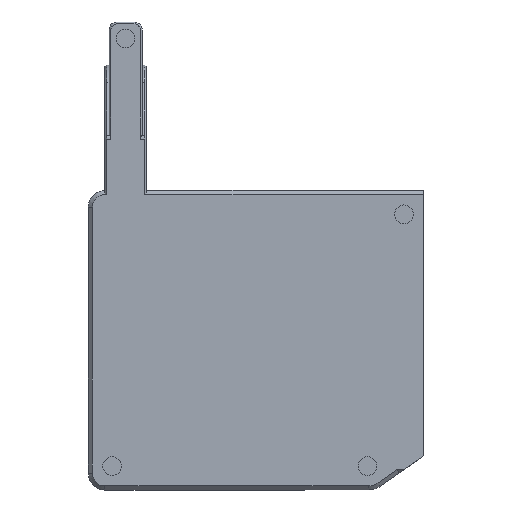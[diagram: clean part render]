
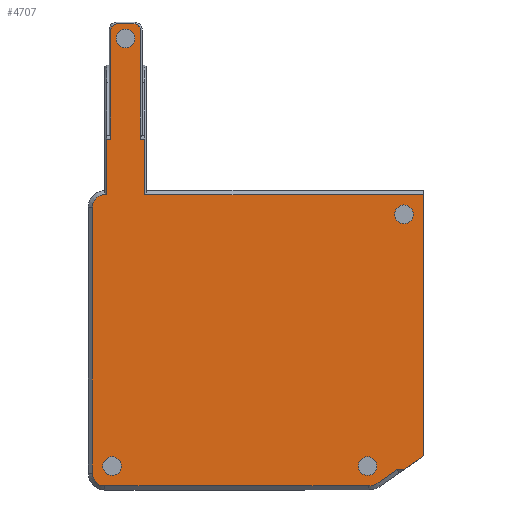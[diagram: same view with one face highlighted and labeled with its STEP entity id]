
A CAD part, top view. The second image highlights one B-rep face of the part: STEP entity #4707.
In plain terms, the highlighted planar face has unit normal (0, 0, 1).
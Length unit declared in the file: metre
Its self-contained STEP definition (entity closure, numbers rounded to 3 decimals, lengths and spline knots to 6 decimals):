
#134=LINE('',#6805,#672);
#135=LINE('',#6808,#673);
#136=LINE('',#6810,#674);
#137=LINE('',#6812,#675);
#138=LINE('',#6814,#676);
#139=LINE('',#6816,#677);
#140=LINE('',#6820,#678);
#141=LINE('',#6824,#679);
#142=LINE('',#6826,#680);
#143=LINE('',#6828,#681);
#144=LINE('',#6832,#682);
#145=LINE('',#6834,#683);
#146=LINE('',#6836,#684);
#147=LINE('',#6840,#685);
#148=LINE('',#6842,#686);
#149=LINE('',#6844,#687);
#150=LINE('',#6848,#688);
#151=LINE('',#6850,#689);
#152=LINE('',#6852,#690);
#153=LINE('',#6854,#691);
#672=VECTOR('',#5423,1.);
#673=VECTOR('',#5424,1.);
#674=VECTOR('',#5425,1.);
#675=VECTOR('',#5426,1.);
#676=VECTOR('',#5427,1.);
#677=VECTOR('',#5428,1.);
#678=VECTOR('',#5431,1.);
#679=VECTOR('',#5434,1.);
#680=VECTOR('',#5435,1.);
#681=VECTOR('',#5436,1.);
#682=VECTOR('',#5439,1.);
#683=VECTOR('',#5440,1.);
#684=VECTOR('',#5441,1.);
#685=VECTOR('',#5444,1.);
#686=VECTOR('',#5445,1.);
#687=VECTOR('',#5446,1.);
#688=VECTOR('',#5449,1.);
#689=VECTOR('',#5450,1.);
#690=VECTOR('',#5451,1.);
#691=VECTOR('',#5452,1.);
#1211=ORIENTED_EDGE('',*,*,#2623,.T.);
#1212=ORIENTED_EDGE('',*,*,#2624,.T.);
#1213=ORIENTED_EDGE('',*,*,#2625,.T.);
#1214=ORIENTED_EDGE('',*,*,#2626,.T.);
#1215=ORIENTED_EDGE('',*,*,#2627,.T.);
#1216=ORIENTED_EDGE('',*,*,#2628,.T.);
#1217=ORIENTED_EDGE('',*,*,#2629,.T.);
#1218=ORIENTED_EDGE('',*,*,#2630,.T.);
#1219=ORIENTED_EDGE('',*,*,#2631,.T.);
#1220=ORIENTED_EDGE('',*,*,#2632,.T.);
#1221=ORIENTED_EDGE('',*,*,#2633,.T.);
#1222=ORIENTED_EDGE('',*,*,#2634,.T.);
#1223=ORIENTED_EDGE('',*,*,#2635,.T.);
#1224=ORIENTED_EDGE('',*,*,#2636,.T.);
#1225=ORIENTED_EDGE('',*,*,#2637,.T.);
#1226=ORIENTED_EDGE('',*,*,#2638,.T.);
#1227=ORIENTED_EDGE('',*,*,#2639,.T.);
#1228=ORIENTED_EDGE('',*,*,#2640,.T.);
#1229=ORIENTED_EDGE('',*,*,#2641,.T.);
#1230=ORIENTED_EDGE('',*,*,#2642,.T.);
#1231=ORIENTED_EDGE('',*,*,#2643,.T.);
#1232=ORIENTED_EDGE('',*,*,#2644,.T.);
#1233=ORIENTED_EDGE('',*,*,#2645,.F.);
#1234=ORIENTED_EDGE('',*,*,#2646,.F.);
#1235=ORIENTED_EDGE('',*,*,#2647,.T.);
#1236=ORIENTED_EDGE('',*,*,#2648,.F.);
#1237=ORIENTED_EDGE('',*,*,#2649,.F.);
#1238=ORIENTED_EDGE('',*,*,#2650,.F.);
#1239=ORIENTED_EDGE('',*,*,#2651,.F.);
#2623=EDGE_CURVE('',#3329,#3330,#134,.T.);
#2624=EDGE_CURVE('',#3330,#3331,#135,.T.);
#2625=EDGE_CURVE('',#3331,#3332,#136,.T.);
#2626=EDGE_CURVE('',#3332,#3333,#137,.T.);
#2627=EDGE_CURVE('',#3333,#3334,#138,.T.);
#2628=EDGE_CURVE('',#3334,#3335,#139,.T.);
#2629=EDGE_CURVE('',#3335,#3336,#3783,.T.);
#2630=EDGE_CURVE('',#3336,#3337,#140,.T.);
#2631=EDGE_CURVE('',#3337,#3338,#3784,.T.);
#2632=EDGE_CURVE('',#3338,#3339,#141,.T.);
#2633=EDGE_CURVE('',#3339,#3340,#142,.T.);
#2634=EDGE_CURVE('',#3340,#3341,#143,.T.);
#2635=EDGE_CURVE('',#3341,#3342,#3785,.T.);
#2636=EDGE_CURVE('',#3342,#3343,#144,.T.);
#2637=EDGE_CURVE('',#3343,#3344,#145,.T.);
#2638=EDGE_CURVE('',#3344,#3345,#146,.T.);
#2639=EDGE_CURVE('',#3345,#3346,#3786,.T.);
#2640=EDGE_CURVE('',#3346,#3347,#147,.T.);
#2641=EDGE_CURVE('',#3347,#3348,#148,.T.);
#2642=EDGE_CURVE('',#3348,#3349,#149,.T.);
#2643=EDGE_CURVE('',#3349,#3350,#3787,.T.);
#2644=EDGE_CURVE('',#3350,#3351,#150,.T.);
#2645=EDGE_CURVE('',#3352,#3351,#151,.T.);
#2646=EDGE_CURVE('',#3353,#3352,#152,.T.);
#2647=EDGE_CURVE('',#3353,#3329,#153,.T.);
#2648=EDGE_CURVE('',#3354,#3354,#3788,.T.);
#2649=EDGE_CURVE('',#3355,#3355,#3789,.T.);
#2650=EDGE_CURVE('',#3356,#3356,#3790,.T.);
#2651=EDGE_CURVE('',#3357,#3357,#3791,.T.);
#3329=VERTEX_POINT('',#6806);
#3330=VERTEX_POINT('',#6807);
#3331=VERTEX_POINT('',#6809);
#3332=VERTEX_POINT('',#6811);
#3333=VERTEX_POINT('',#6813);
#3334=VERTEX_POINT('',#6815);
#3335=VERTEX_POINT('',#6817);
#3336=VERTEX_POINT('',#6819);
#3337=VERTEX_POINT('',#6821);
#3338=VERTEX_POINT('',#6823);
#3339=VERTEX_POINT('',#6825);
#3340=VERTEX_POINT('',#6827);
#3341=VERTEX_POINT('',#6829);
#3342=VERTEX_POINT('',#6831);
#3343=VERTEX_POINT('',#6833);
#3344=VERTEX_POINT('',#6835);
#3345=VERTEX_POINT('',#6837);
#3346=VERTEX_POINT('',#6839);
#3347=VERTEX_POINT('',#6841);
#3348=VERTEX_POINT('',#6843);
#3349=VERTEX_POINT('',#6845);
#3350=VERTEX_POINT('',#6847);
#3351=VERTEX_POINT('',#6849);
#3352=VERTEX_POINT('',#6851);
#3353=VERTEX_POINT('',#6853);
#3354=VERTEX_POINT('',#6856);
#3355=VERTEX_POINT('',#6858);
#3356=VERTEX_POINT('',#6860);
#3357=VERTEX_POINT('',#6862);
#3783=CIRCLE('',#4985,0.0032);
#3784=CIRCLE('',#4986,0.0032);
#3785=CIRCLE('',#4987,0.006);
#3786=CIRCLE('',#4988,0.006);
#3787=CIRCLE('',#4989,0.008);
#3788=CIRCLE('',#4990,0.0045);
#3789=CIRCLE('',#4991,0.0045);
#3790=CIRCLE('',#4992,0.0045);
#3791=CIRCLE('',#4993,0.0045);
#3932=EDGE_LOOP('',(#1211,#1212,#1213,#1214,#1215,#1216,#1217,#1218,#1219,
#1220,#1221,#1222,#1223,#1224,#1225,#1226,#1227,#1228,#1229,#1230,#1231,
#1232,#1233,#1234,#1235));
#3933=EDGE_LOOP('',(#1236));
#3934=EDGE_LOOP('',(#1237));
#3935=EDGE_LOOP('',(#1238));
#3936=EDGE_LOOP('',(#1239));
#4231=FACE_BOUND('',#3932,.T.);
#4232=FACE_BOUND('',#3933,.T.);
#4233=FACE_BOUND('',#3934,.T.);
#4234=FACE_BOUND('',#3935,.T.);
#4235=FACE_BOUND('',#3936,.T.);
#4530=PLANE('',#4984);
#4707=ADVANCED_FACE('',(#4231,#4232,#4233,#4234,#4235),#4530,.T.);
#4984=AXIS2_PLACEMENT_3D('',#6804,#5421,#5422);
#4985=AXIS2_PLACEMENT_3D('',#6818,#5429,#5430);
#4986=AXIS2_PLACEMENT_3D('',#6822,#5432,#5433);
#4987=AXIS2_PLACEMENT_3D('',#6830,#5437,#5438);
#4988=AXIS2_PLACEMENT_3D('',#6838,#5442,#5443);
#4989=AXIS2_PLACEMENT_3D('',#6846,#5447,#5448);
#4990=AXIS2_PLACEMENT_3D('',#6855,#5453,#5454);
#4991=AXIS2_PLACEMENT_3D('',#6857,#5455,#5456);
#4992=AXIS2_PLACEMENT_3D('',#6859,#5457,#5458);
#4993=AXIS2_PLACEMENT_3D('',#6861,#5459,#5460);
#5421=DIRECTION('',(0.,0.,1.));
#5422=DIRECTION('',(1.,0.,0.));
#5423=DIRECTION('',(-1.,0.,0.));
#5424=DIRECTION('',(-1.,0.,0.));
#5425=DIRECTION('',(-1.,0.,0.));
#5426=DIRECTION('',(0.,1.,0.));
#5427=DIRECTION('',(-1.,0.,0.));
#5428=DIRECTION('',(0.,1.,0.));
#5429=DIRECTION('',(0.,0.,1.));
#5430=DIRECTION('',(1.,0.,0.));
#5431=DIRECTION('',(-1.,0.,0.));
#5432=DIRECTION('',(0.,0.,1.));
#5433=DIRECTION('',(1.,0.,0.));
#5434=DIRECTION('',(0.,-1.,0.));
#5435=DIRECTION('',(-1.,0.,0.));
#5436=DIRECTION('',(0.,-1.,0.));
#5437=DIRECTION('',(0.,0.,1.));
#5438=DIRECTION('',(1.,0.,0.));
#5439=DIRECTION('',(0.,-1.,0.));
#5440=DIRECTION('',(0.,-1.,0.));
#5441=DIRECTION('',(0.,-1.,0.));
#5442=DIRECTION('',(0.,0.,1.));
#5443=DIRECTION('',(1.,0.,0.));
#5444=DIRECTION('',(1.,0.,0.));
#5445=DIRECTION('',(1.,0.,0.));
#5446=DIRECTION('',(1.,0.,0.));
#5447=DIRECTION('',(0.,0.,1.));
#5448=DIRECTION('',(1.,0.,0.));
#5449=DIRECTION('',(0.819,0.574,0.));
#5450=DIRECTION('',(-1.,0.,0.));
#5451=DIRECTION('',(-0.819,-0.574,0.));
#5452=DIRECTION('',(0.,1.,0.));
#5453=DIRECTION('',(0.,0.,1.));
#5454=DIRECTION('',(1.,0.,0.));
#5455=DIRECTION('',(0.,0.,1.));
#5456=DIRECTION('',(1.,0.,0.));
#5457=DIRECTION('',(0.,0.,1.));
#5458=DIRECTION('',(1.,0.,0.));
#5459=DIRECTION('',(0.,0.,1.));
#5460=DIRECTION('',(1.,0.,0.));
#6804=CARTESIAN_POINT('',(-0.003,-0.006225,0.00825));
#6805=CARTESIAN_POINT('',(-0.1645,0.06415,0.00825));
#6806=CARTESIAN_POINT('',(-0.102932,0.06415,0.00825));
#6807=CARTESIAN_POINT('',(-0.1645,0.06415,0.00825));
#6808=CARTESIAN_POINT('',(-0.2145,0.06415,0.00825));
#6809=CARTESIAN_POINT('',(-0.2145,0.06415,0.00825));
#6810=CARTESIAN_POINT('',(-0.237,0.06415,0.00825));
#6811=CARTESIAN_POINT('',(-0.2378,0.06415,0.00825));
#6812=CARTESIAN_POINT('',(-0.2378,0.090942,0.00825));
#6813=CARTESIAN_POINT('',(-0.2378,0.090942,0.00825));
#6814=CARTESIAN_POINT('',(-0.257,0.090942,0.00825));
#6815=CARTESIAN_POINT('',(-0.2398,0.090942,0.00825));
#6816=CARTESIAN_POINT('',(-0.2398,0.143586,0.00825));
#6817=CARTESIAN_POINT('',(-0.2398,0.143586,0.00825));
#6818=CARTESIAN_POINT('',(-0.243,0.143586,0.00825));
#6819=CARTESIAN_POINT('',(-0.243,0.146786,0.00825));
#6820=CARTESIAN_POINT('',(-0.251,0.146786,0.00825));
#6821=CARTESIAN_POINT('',(-0.251,0.146786,0.00825));
#6822=CARTESIAN_POINT('',(-0.251,0.143586,0.00825));
#6823=CARTESIAN_POINT('',(-0.2542,0.143586,0.00825));
#6824=CARTESIAN_POINT('',(-0.2542,-0.006225,0.00825));
#6825=CARTESIAN_POINT('',(-0.2542,0.090942,0.00825));
#6826=CARTESIAN_POINT('',(-0.257,0.090942,0.00825));
#6827=CARTESIAN_POINT('',(-0.2562,0.090942,0.00825));
#6828=CARTESIAN_POINT('',(-0.2562,-0.006225,0.00825));
#6829=CARTESIAN_POINT('',(-0.2562,0.064096,0.00825));
#6830=CARTESIAN_POINT('',(-0.257,0.05815,0.00825));
#6831=CARTESIAN_POINT('',(-0.263,0.05815,0.00825));
#6832=CARTESIAN_POINT('',(-0.263,-0.006225,0.00825));
#6833=CARTESIAN_POINT('',(-0.263,-0.006975,0.00825));
#6834=CARTESIAN_POINT('',(-0.263,-0.006225,0.00825));
#6835=CARTESIAN_POINT('',(-0.263,-0.060975,0.00825));
#6836=CARTESIAN_POINT('',(-0.263,-0.006225,0.00825));
#6837=CARTESIAN_POINT('',(-0.263,-0.0706,0.00825));
#6838=CARTESIAN_POINT('',(-0.257,-0.0706,0.00825));
#6839=CARTESIAN_POINT('',(-0.257,-0.0766,0.00825));
#6840=CARTESIAN_POINT('',(-0.003,-0.0766,0.00825));
#6841=CARTESIAN_POINT('',(-0.199315,-0.0766,0.00825));
#6842=CARTESIAN_POINT('',(-0.003,-0.0766,0.00825));
#6843=CARTESIAN_POINT('',(-0.180315,-0.0766,0.00825));
#6844=CARTESIAN_POINT('',(-0.003,-0.0766,0.00825));
#6845=CARTESIAN_POINT('',(-0.129578,-0.0766,0.00825));
#6846=CARTESIAN_POINT('',(-0.129578,-0.0686,0.00825));
#6847=CARTESIAN_POINT('',(-0.12499,-0.075153,0.00825));
#6848=CARTESIAN_POINT('',(-0.008735,0.006249,0.00825));
#6849=CARTESIAN_POINT('',(-0.115631,-0.0686,0.00825));
#6850=CARTESIAN_POINT('',(-0.113485,-0.0686,0.00825));
#6851=CARTESIAN_POINT('',(-0.112144,-0.0686,0.00825));
#6852=CARTESIAN_POINT('',(-0.108922,-0.066344,0.00825));
#6853=CARTESIAN_POINT('',(-0.102932,-0.06215,0.00825));
#6854=CARTESIAN_POINT('',(-0.102932,0.002,0.00825));
#6855=CARTESIAN_POINT('',(-0.2535,-0.0671,0.00825));
#6856=CARTESIAN_POINT('',(-0.249,-0.0671,0.00825));
#6857=CARTESIAN_POINT('',(-0.112432,0.05465,0.00825));
#6858=CARTESIAN_POINT('',(-0.107932,0.05465,0.00825));
#6859=CARTESIAN_POINT('',(-0.130051,-0.0671,0.00825));
#6860=CARTESIAN_POINT('',(-0.125551,-0.0671,0.00825));
#6861=CARTESIAN_POINT('',(-0.247,0.139586,0.00825));
#6862=CARTESIAN_POINT('',(-0.2425,0.139586,0.00825));
